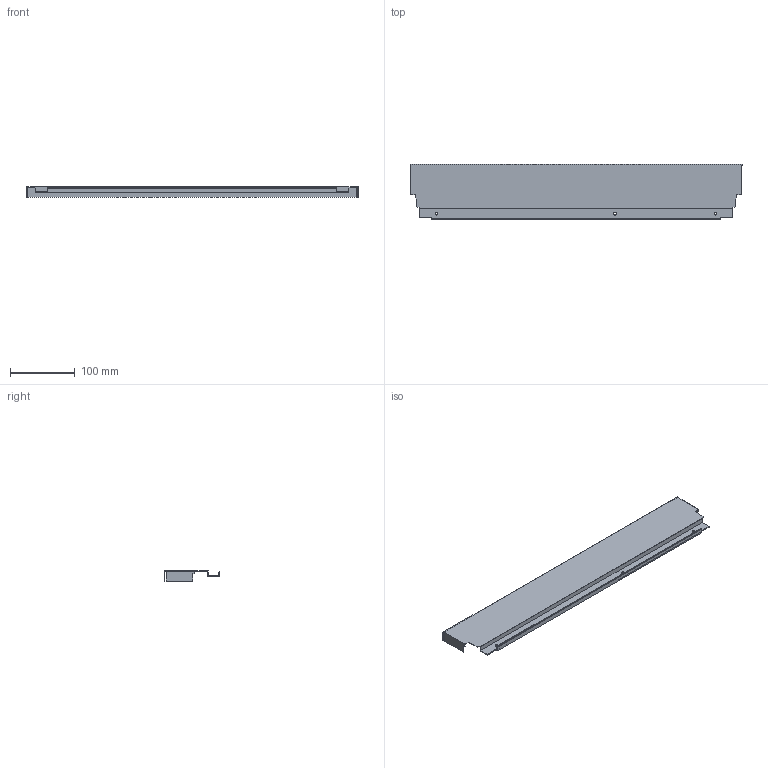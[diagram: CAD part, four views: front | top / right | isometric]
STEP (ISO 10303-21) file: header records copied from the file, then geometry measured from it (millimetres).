
FILE_DESCRIPTION (( 'STEP AP214' ), '1' );
FILE_NAME ('_DWD_XP Stahlrückwand_H86_KAB600_S19.step', '2010-07-08T12:10:34', ( 'grass' ), ( '' ), 'SwSTEP 2.0', 'SolidWorks 2010', '' );
FILE_SCHEMA (( 'AUTOMOTIVE_DESIGN' ));
Length unit declared in the file: millimetre
Products named in the file (1): _DWD_XP Stahlrückwand_H86_KAB600_S19
Bounding box: 513 x 85.79 x 16 mm (x, y, z)
Volume: 54590.8 mm3; surface area: 119035.6 mm2
Topology: 1 solids, 1 shells, 50 faces, 144 edges, 96 vertices
Faces by surface type: plane 44, cylinder 6
Entity records: 1666 total; most frequent: CARTESIAN_POINT 291, ORIENTED_EDGE 288, DIRECTION 258, EDGE_CURVE 144, VECTOR 132, LINE 132, VERTEX_POINT 96, AXIS2_PLACEMENT_3D 63
